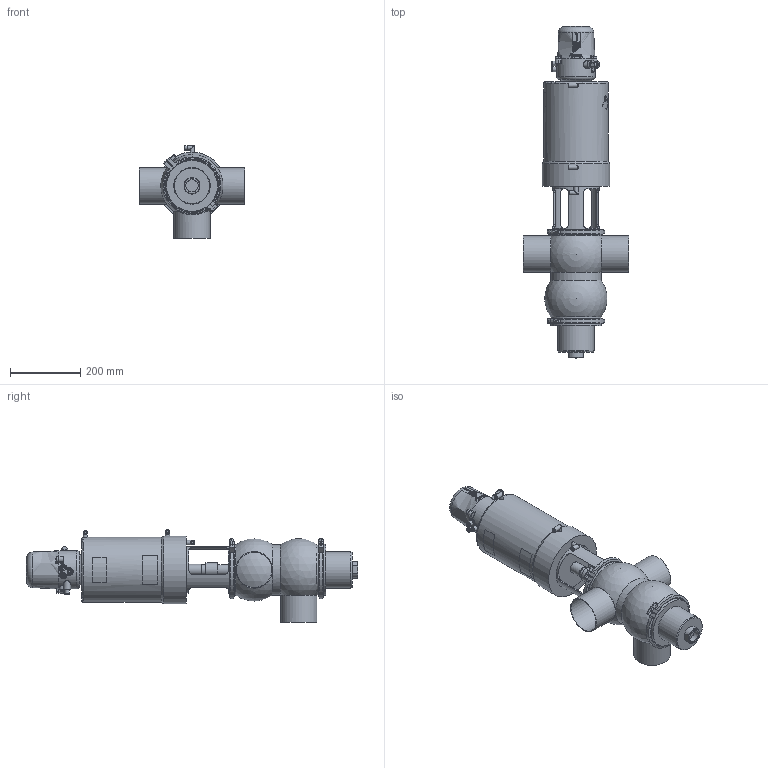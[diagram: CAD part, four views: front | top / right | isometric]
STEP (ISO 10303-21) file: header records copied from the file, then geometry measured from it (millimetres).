
FILE_DESCRIPTION (( 'STEP AP214' ), '1' );
FILE_NAME ('INNOVA P AB-90 W DIN 100 & C-TOP S_10.250.16.0011.STEP', '2024-08-09T12:27:11', ( '' ), ( '' ), 'SwSTEP 2.0', 'SolidWorks 2023', '' );
FILE_SCHEMA (( 'AUTOMOTIVE_DESIGN' ));
Length unit declared in the file: millimetre
Products named in the file (7): 10.250.15.0001_DIN 100; 10.250.15.0003_DN 100; 10.251.15.0003_DIN 100; 10.250.15.0002_Type P T3; INNOVA P AB-90 W DIN 100 & C-TOP S_10.250.16.0011; 10.240.15.0001_DN 100; 10.426.15.0001_C-TOP S - 3 EV
Assembly tree (7 placements, depth 2):
  INNOVA P AB-90 W DIN 100 & C-TOP S_10.250.16.0011
    10.250.15.0001_DIN 100
    10.250.15.0002_Type P T3
    10.426.15.0001_C-TOP S - 3 EV
    10.251.15.0003_DIN 100
    10.240.15.0001_DN 100  x2
    10.250.15.0003_DN 100
Bounding box: 300 x 946.5 x 265 mm (x, y, z)
Volume: 16490108.5 mm3; surface area: 885705.9 mm2
Topology: 7 solids, 7 shells, 1207 faces, 2919 edges, 1941 vertices
Faces by surface type: plane 413, cylinder 385, cone 204, bspline 162, torus 33, sphere 10
Full cylindrical faces by diameter (mm): 0.371 x17, 0.512 x16, 0.658 x16, 0.795 x16, 0.94 x15, 1.098 x15, 1.241 x13, 1.382 x13, 1.523 x11, 1.669 x10, 2.201 x1, 4.2 x2, 5 x1, 5.5 x2, 6 x4, 6.15 x3, 8 x5, 10 x1, 10.5 x3, 11 x4, 12.5 x9, 13 x6, 13.5 x2, 17 x3, 20 x2, 22 x2, 30.5 x2, 32 x1, 35 x1, 41 x1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
Entity records: 60155 total; most frequent: CARTESIAN_POINT 28682, ORIENTED_EDGE 4626, DIRECTION 3773, EDGE_CURVE 2313, VERTEX_POINT 1649, EDGE_LOOP 1628, AXIS2_PLACEMENT_3D 1556, FACE_OUTER_BOUND 1376
